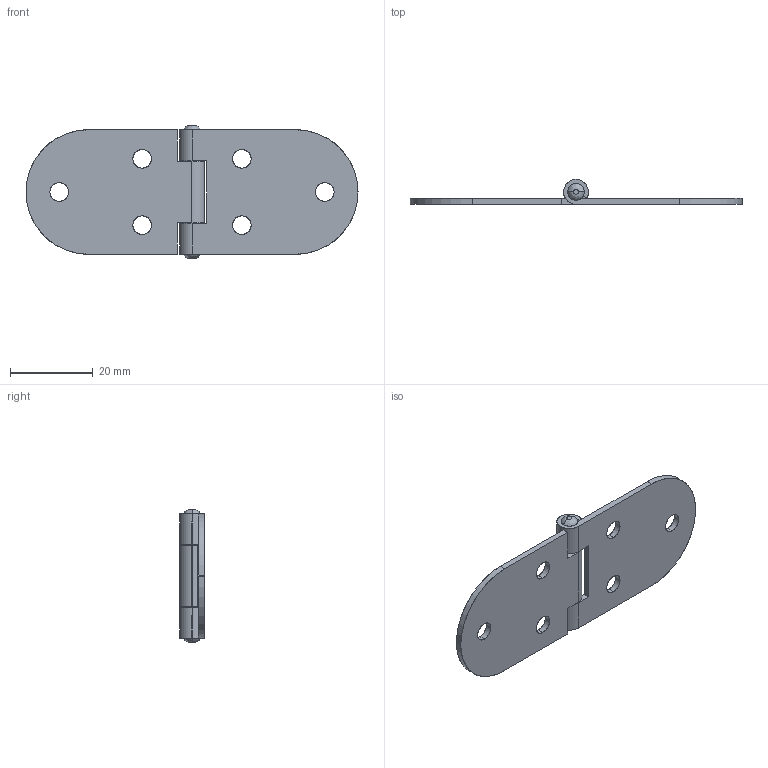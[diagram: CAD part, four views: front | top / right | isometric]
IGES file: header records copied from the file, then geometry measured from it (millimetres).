
Start section: SolidWorks IGES file using analytic representation for surfaces
Global section: file name: C:\Users\cbrechard\Desktop\CC 407.IGS; native system: SolidWorks 2017; preprocessor: SolidWorks 2017; author: cbrechard; date: 190905.181752; units: millimetre
Bounding box: 80 x 6 x 32 mm (x, y, z)
Surface area: 5655.1 mm2 (no closed solid volume)
Topology: 0 solids, 0 shells, 62 faces, 1228 edges, 1228 vertices
Faces by surface type: revolution 36, bspline 26
